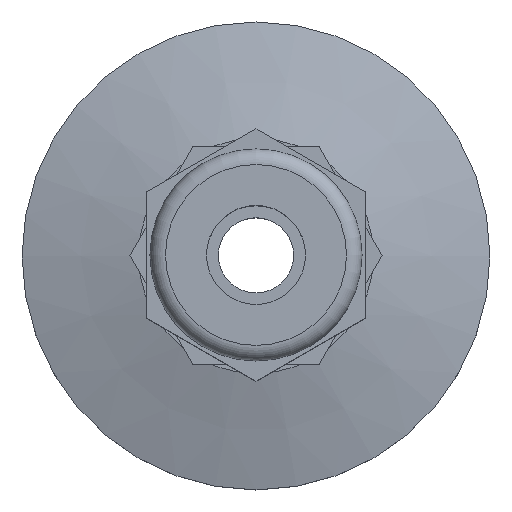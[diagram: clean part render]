
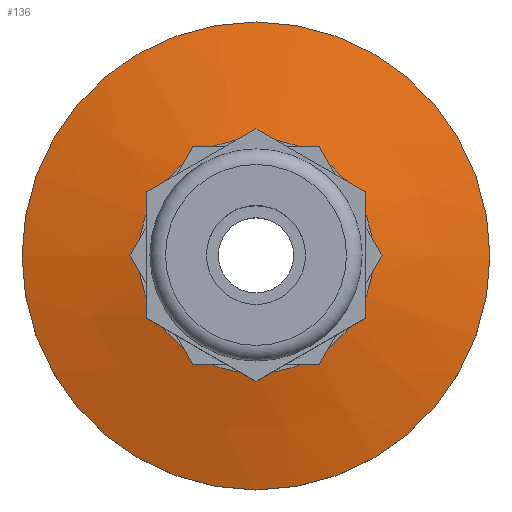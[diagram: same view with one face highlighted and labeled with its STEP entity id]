
A CAD part, top view. The second image highlights one B-rep face of the part: STEP entity #136.
In plain terms, the highlighted conical face has half-angle 75 degrees and reference radius 15 mm.
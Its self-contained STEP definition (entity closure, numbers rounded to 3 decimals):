
#136 = ADVANCED_FACE( '', ( #270, #271 ), #272, .T. );
#270 = FACE_BOUND( '', #408, .T. );
#271 = FACE_OUTER_BOUND( '', #409, .T. );
#272 = CONICAL_SURFACE( '', #410, 15., 1.309 );
#408 = EDGE_LOOP( '', ( #588 ) );
#409 = EDGE_LOOP( '', ( #589 ) );
#410 = AXIS2_PLACEMENT_3D( '', #590, #591, #592 );
#588 = ORIENTED_EDGE( '', *, *, #774, .F. );
#589 = ORIENTED_EDGE( '', *, *, #739, .T. );
#590 = CARTESIAN_POINT( '', ( 0., 0., 3. ) );
#591 = DIRECTION( '', ( 0., 0., -1. ) );
#592 = DIRECTION( '', ( -1., 0., 0. ) );
#739 = EDGE_CURVE( '', #844, #844, #845, .T. );
#774 = EDGE_CURVE( '', #902, #902, #903, .T. );
#844 = VERTEX_POINT( '', #982 );
#845 = CIRCLE( '', #983, 15. );
#902 = VERTEX_POINT( '', #1059 );
#903 = CIRCLE( '', #1060, 7.536 );
#982 = CARTESIAN_POINT( '', ( 15., 0., 3. ) );
#983 = AXIS2_PLACEMENT_3D( '', #1147, #1148, #1149 );
#1059 = CARTESIAN_POINT( '', ( 7.536, 0., 5. ) );
#1060 = AXIS2_PLACEMENT_3D( '', #1181, #1182, #1183 );
#1147 = CARTESIAN_POINT( '', ( 0., 0., 3. ) );
#1148 = DIRECTION( '', ( 0., 0., 1. ) );
#1149 = DIRECTION( '', ( 1., 0., 0. ) );
#1181 = CARTESIAN_POINT( '', ( 0., 0., 5. ) );
#1182 = DIRECTION( '', ( 0., 0., 1. ) );
#1183 = DIRECTION( '', ( 1., 0., 0. ) );
